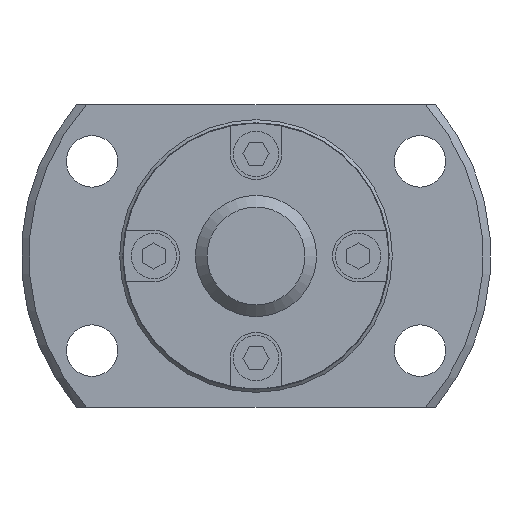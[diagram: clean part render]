
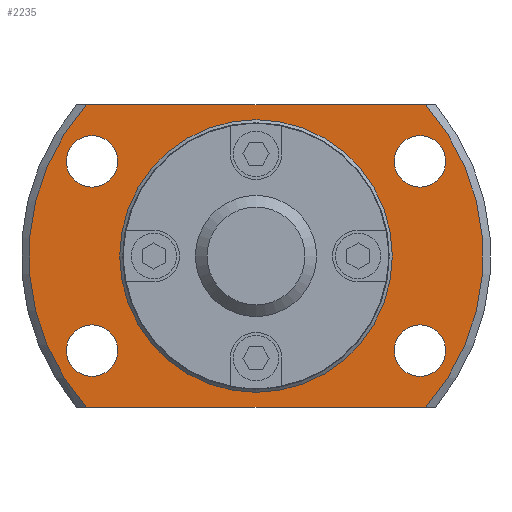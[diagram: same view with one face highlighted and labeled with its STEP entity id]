
A CAD part, left-side view. The second image highlights one B-rep face of the part: STEP entity #2235.
In plain terms, the highlighted planar face has unit normal (-1, 0, 0).
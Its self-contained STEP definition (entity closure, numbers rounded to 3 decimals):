
#68=LINE('',#3461,#284);
#69=LINE('',#3465,#285);
#284=VECTOR('',#2766,1000.);
#285=VECTOR('',#2769,1000.);
#604=ORIENTED_EDGE('',*,*,#1200,.F.);
#605=ORIENTED_EDGE('',*,*,#1201,.F.);
#606=ORIENTED_EDGE('',*,*,#1202,.F.);
#607=ORIENTED_EDGE('',*,*,#1203,.F.);
#608=ORIENTED_EDGE('',*,*,#1186,.F.);
#609=ORIENTED_EDGE('',*,*,#1204,.T.);
#610=ORIENTED_EDGE('',*,*,#1205,.F.);
#611=ORIENTED_EDGE('',*,*,#1206,.T.);
#612=ORIENTED_EDGE('',*,*,#1199,.T.);
#1186=EDGE_CURVE('',#1488,#1489,#1669,.T.);
#1199=EDGE_CURVE('',#1500,#1500,#1677,.T.);
#1200=EDGE_CURVE('',#1501,#1501,#1678,.F.);
#1201=EDGE_CURVE('',#1502,#1502,#1679,.F.);
#1202=EDGE_CURVE('',#1503,#1503,#1680,.F.);
#1203=EDGE_CURVE('',#1504,#1504,#1681,.F.);
#1204=EDGE_CURVE('',#1488,#1505,#68,.T.);
#1205=EDGE_CURVE('',#1506,#1505,#1682,.T.);
#1206=EDGE_CURVE('',#1506,#1489,#69,.T.);
#1488=VERTEX_POINT('',#3409);
#1489=VERTEX_POINT('',#3411);
#1500=VERTEX_POINT('',#3451);
#1501=VERTEX_POINT('',#3454);
#1502=VERTEX_POINT('',#3456);
#1503=VERTEX_POINT('',#3458);
#1504=VERTEX_POINT('',#3460);
#1505=VERTEX_POINT('',#3462);
#1506=VERTEX_POINT('',#3464);
#1669=CIRCLE('',#2418,15.);
#1677=CIRCLE('',#2433,8.85);
#1678=CIRCLE('',#2435,1.7);
#1679=CIRCLE('',#2436,1.7);
#1680=CIRCLE('',#2437,1.7);
#1681=CIRCLE('',#2438,1.7);
#1682=CIRCLE('',#2439,15.);
#1763=EDGE_LOOP('',(#604));
#1764=EDGE_LOOP('',(#605));
#1765=EDGE_LOOP('',(#606));
#1766=EDGE_LOOP('',(#607));
#1767=EDGE_LOOP('',(#608,#609,#610,#611));
#1768=EDGE_LOOP('',(#612));
#1957=FACE_BOUND('',#1763,.T.);
#1958=FACE_BOUND('',#1764,.T.);
#1959=FACE_BOUND('',#1765,.T.);
#1960=FACE_BOUND('',#1766,.T.);
#1961=FACE_BOUND('',#1767,.T.);
#1962=FACE_BOUND('',#1768,.T.);
#2124=PLANE('',#2434);
#2235=ADVANCED_FACE('',(#1957,#1958,#1959,#1960,#1961,#1962),#2124,.F.);
#2418=AXIS2_PLACEMENT_3D('',#3410,#2722,#2723);
#2433=AXIS2_PLACEMENT_3D('',#3450,#2754,#2755);
#2434=AXIS2_PLACEMENT_3D('',#3452,#2756,#2757);
#2435=AXIS2_PLACEMENT_3D('',#3453,#2758,#2759);
#2436=AXIS2_PLACEMENT_3D('',#3455,#2760,#2761);
#2437=AXIS2_PLACEMENT_3D('',#3457,#2762,#2763);
#2438=AXIS2_PLACEMENT_3D('',#3459,#2764,#2765);
#2439=AXIS2_PLACEMENT_3D('',#3463,#2767,#2768);
#2722=DIRECTION('',(1.,0.,0.));
#2723=DIRECTION('',(0.,0.,-1.));
#2754=DIRECTION('',(1.,0.,0.));
#2755=DIRECTION('',(0.,0.,-1.));
#2756=DIRECTION('',(1.,0.,0.));
#2757=DIRECTION('',(0.,0.,-1.));
#2758=DIRECTION('',(1.,0.,0.));
#2759=DIRECTION('',(0.,0.,-1.));
#2760=DIRECTION('',(1.,0.,0.));
#2761=DIRECTION('',(0.,0.,-1.));
#2762=DIRECTION('',(1.,0.,0.));
#2763=DIRECTION('',(0.,0.,-1.));
#2764=DIRECTION('',(1.,0.,0.));
#2765=DIRECTION('',(0.,0.,-1.));
#2766=DIRECTION('',(0.,-1.,0.));
#2767=DIRECTION('',(1.,0.,0.));
#2768=DIRECTION('',(0.,0.,-1.));
#2769=DIRECTION('',(0.,1.,0.));
#3409=CARTESIAN_POINT('',(14.,11.18,-10.));
#3410=CARTESIAN_POINT('',(14.,0.,0.));
#3411=CARTESIAN_POINT('',(14.,11.18,10.));
#3450=CARTESIAN_POINT('',(14.,0.,0.));
#3451=CARTESIAN_POINT('',(14.,0.,-8.85));
#3452=CARTESIAN_POINT('',(14.,8.85,0.));
#3453=CARTESIAN_POINT('',(14.,-10.825,-6.25));
#3454=CARTESIAN_POINT('',(14.,-10.825,-7.95));
#3455=CARTESIAN_POINT('',(14.,-10.825,6.25));
#3456=CARTESIAN_POINT('',(14.,-10.825,4.55));
#3457=CARTESIAN_POINT('',(14.,10.825,-6.25));
#3458=CARTESIAN_POINT('',(14.,10.825,-7.95));
#3459=CARTESIAN_POINT('',(14.,10.825,6.25));
#3460=CARTESIAN_POINT('',(14.,10.825,4.55));
#3461=CARTESIAN_POINT('',(14.,8.85,-10.));
#3462=CARTESIAN_POINT('',(14.,-11.18,-10.));
#3463=CARTESIAN_POINT('',(14.,0.,0.));
#3464=CARTESIAN_POINT('',(14.,-11.18,10.));
#3465=CARTESIAN_POINT('',(14.,8.85,10.));
